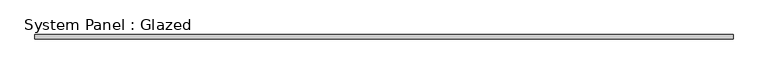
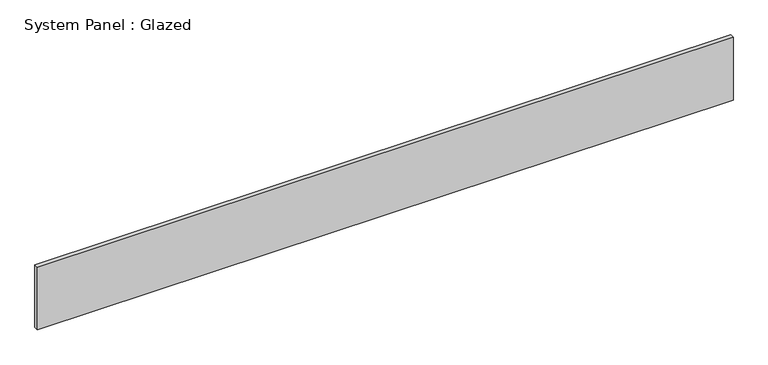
"""IFC4 building model written with IfcOpenShell, lengths in millimetres: plate geometry, System Panel : Glazed."""

from ifc_helpers import new_model, si_unit, origin, origin_with_axes, place, context, project, spatial, polyline, outline, extrude, source, transform, mapped, element, save


def system_panel_glazed_066b9291(model_context):
    return source(origin(), model_context, "Body", "SweptSolid", [
        extrude(outline(polyline([(1962.5, -49.5), (-1962.5, -49.5), (-1962.5, -24.5), (1962.5, -24.5), (1962.5, -49.5)])), origin_with_axes(), (0.0, 0.0, 1.0), 373.4924443),
    ])


if __name__ == "__main__":
    model = new_model("IFC4")
    model_context = context("Model", 3, world=origin())
    ifc_project = project(units=[si_unit("LENGTHUNIT", "METRE", prefix="MILLI")], contexts=[model_context])
    site = spatial("IfcSite", under=ifc_project)
    building = spatial("IfcBuilding", under=site)
    placement = place(None, origin())
    system_panel_glazed_shape = system_panel_glazed_066b9291(model_context)
    element("IfcPlate", 1, ObjectType="System Panel : Glazed", at=placement, inside=building, context=model_context, shape_type="MappedRepresentation", body=[
        mapped(system_panel_glazed_shape, transform((0.0, 0.0, 0.0), x_axis=(1.0, 0.0, 0.0), y_axis=(0.0, 1.0, 0.0), z_axis=(0.0, 0.0, 1.0))),
    ])
    save(model, "model.ifc")
